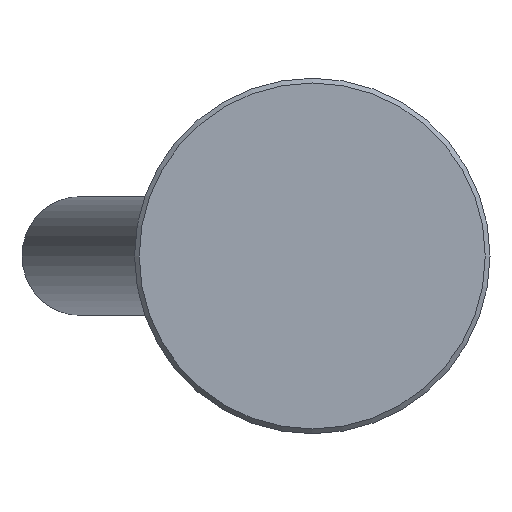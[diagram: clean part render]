
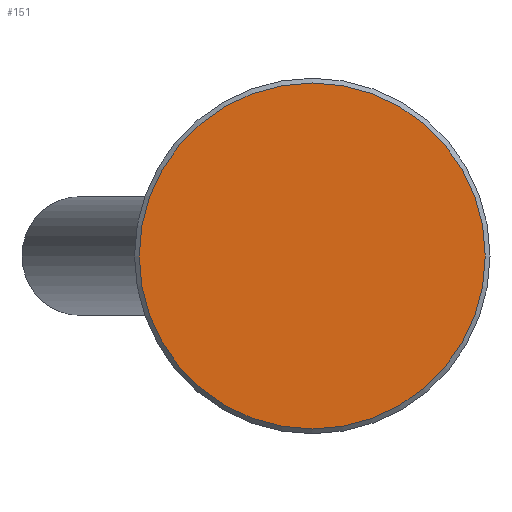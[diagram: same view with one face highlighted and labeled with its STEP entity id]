
A CAD part, front view. The second image highlights one B-rep face of the part: STEP entity #151.
In plain terms, the highlighted planar face has unit normal (0, -1, 0).
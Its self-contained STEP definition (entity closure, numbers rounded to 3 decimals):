
#151 = ADVANCED_FACE( '', ( #313 ), #314, .F. );
#313 = FACE_OUTER_BOUND( '', #513, .T. );
#314 = PLANE( '', #514 );
#513 = EDGE_LOOP( '', ( #721 ) );
#514 = AXIS2_PLACEMENT_3D( '', #722, #723, #724 );
#721 = ORIENTED_EDGE( '', *, *, #1119, .T. );
#722 = CARTESIAN_POINT( '', ( 29.2, 0., 0. ) );
#723 = DIRECTION( '', ( 0., 1., 0. ) );
#724 = DIRECTION( '', ( 0., 0., 1. ) );
#1119 = EDGE_CURVE( '', #1283, #1283, #1284, .T. );
#1283 = VERTEX_POINT( '', #1529 );
#1284 = CIRCLE( '', #1530, 29.2 );
#1529 = CARTESIAN_POINT( '', ( 0., 0., -29.2 ) );
#1530 = AXIS2_PLACEMENT_3D( '', #2019, #2020, #2021 );
#2019 = CARTESIAN_POINT( '', ( 0., 0., 0. ) );
#2020 = DIRECTION( '', ( 0., -1., 0. ) );
#2021 = DIRECTION( '', ( 0., 0., -1. ) );
